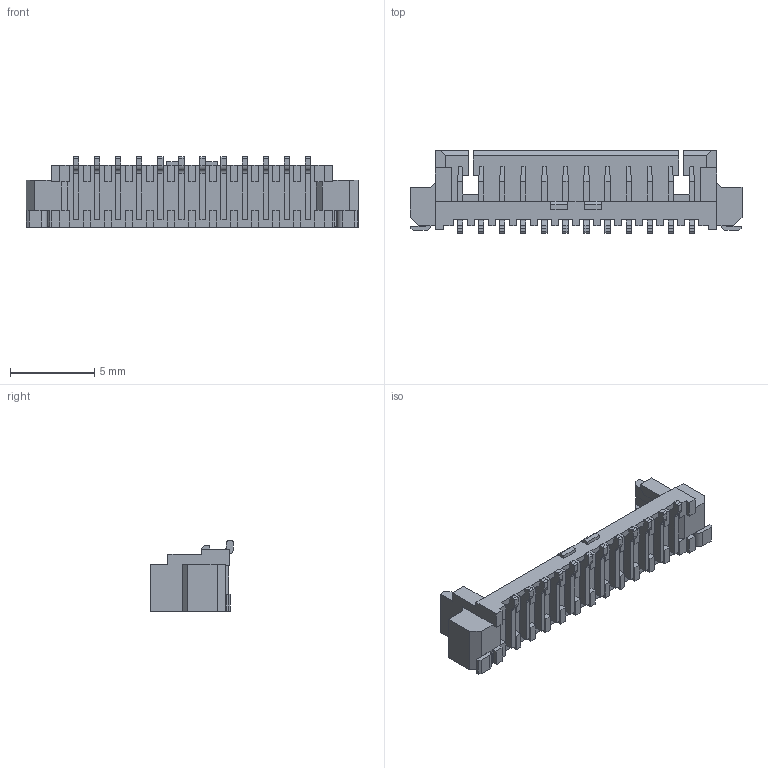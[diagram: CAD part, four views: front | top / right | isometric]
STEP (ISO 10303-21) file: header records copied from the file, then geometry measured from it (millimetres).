
FILE_DESCRIPTION((''),'2;1');
FILE_NAME('S-50273-012XX-XXX','2022-07-29T',('k94555'),(''),'PRO/ENGINEER BY PARAMETRIC TECHNOLOGY CORPORATION, 2009360','PRO/ENGINEER BY PARAMETRIC TECHNOLOGY CORPORATION, 2009360','');
FILE_SCHEMA(('CONFIG_CONTROL_DESIGN'));
Length unit declared in the file: millimetre
Products named in the file (1): S-50273-012XX-XXX
Bounding box: 19.75 x 4.9 x 4.2 mm (x, y, z)
Volume: 131.6 mm3; surface area: 526.1 mm2
Topology: 1 solids, 1 shells, 907 faces, 2705 edges, 1778 vertices
Faces by surface type: plane 823, cylinder 82, cone 2
Entity records: 29983 total; most frequent: CARTESIAN_POINT 5376, ORIENTED_EDGE 5298, DIRECTION 4735, EDGE_CURVE 2649, VECTOR 2531, LINE 2531, VERTEX_POINT 1722, AXIS2_PLACEMENT_3D 1102
